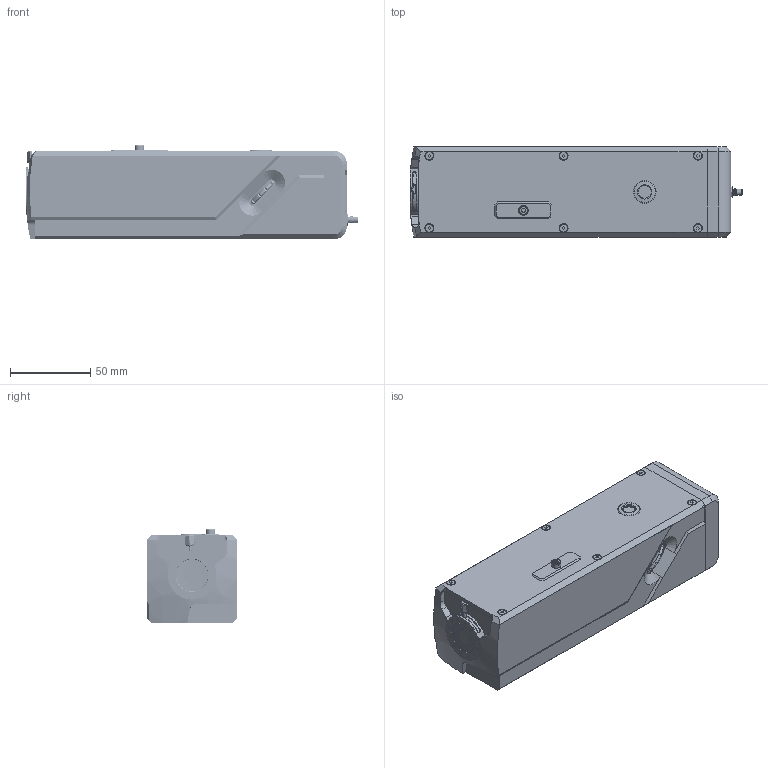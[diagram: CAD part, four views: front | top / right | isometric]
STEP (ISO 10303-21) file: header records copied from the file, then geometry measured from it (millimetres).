
FILE_DESCRIPTION (( 'STEP AP214' ), '1' );
FILE_NAME ('ROC PS.STEP', '2023-11-15T11:14:59', ( '' ), ( '' ), 'SwSTEP 2.0', 'SolidWorks 2020', '' );
FILE_SCHEMA (( 'AUTOMOTIVE_DESIGN' ));
Length unit declared in the file: millimetre
Products named in the file (26): ROC-BOX-03-C5_ROC-BOX-03-C4; COM-ADAPT-AVT_COM-ADAPT-AVT-C1; ROC-BOX-07_ROC-BOX-07-C1; ROC-BOX-04; Cache iris entrée^Assemblage ROC documentation produit; CHC_CHC-M1.6-L5; Cache réglage PM^Assemblage ROC documentation produit; D20S-Solidworks_Sans tige; CHC_CHC-M2-L6; ROC-BOX-06_ROC-BOX-06-C1; Assemblage couvercle ROC avec mire_Petit ROC avec r‚glage PM; ROC-BOX-01_C1 - int‚rieur masqu‚; ROC-BOX-05; Fenêtre mire; FHC_FHC-M2.5-L8 noire; FHC_FHC-M2-L10; ROC-OPT-05.3_ROC-OPT-05.3-D25; ROC-BOX-02_ROC-BOX-02-C3; FHC_FHC-M2.5-L20 noire; ROC PS; Assemblage cul_C5 - Cam‚ra Allied Vision - r‚glage tilt; Alvium-USB180-Bare-Board-IMX250-252-264-265.step; CHC_CHC-M2-L4; ROC-OPT-02.3; 295-5435 - Radiall R112553000; JST 07SR-3S
Assembly tree (38 placements, depth 3):
  ROC PS
    ROC-BOX-01_C1 - int‚rieur masqu‚
    Assemblage couvercle ROC avec mire_Petit ROC avec r‚glage PM
      ROC-BOX-02_ROC-BOX-02-C3
      ROC-BOX-04
      Fenêtre mire
      ROC-BOX-05
      CHC_CHC-M2-L4  x2
      FHC_FHC-M2.5-L8 noire  x6
      FHC_FHC-M2-L10
      ROC-BOX-07_ROC-BOX-07-C1
    Assemblage cul_C5 - Cam‚ra Allied Vision - r‚glage tilt
      FHC_FHC-M2.5-L20 noire  x4
      Alvium-USB180-Bare-Board-IMX250-252-264-265.step
      CHC_CHC-M1.6-L5  x4
      JST 07SR-3S
      COM-ADAPT-AVT_COM-ADAPT-AVT-C1
      ROC-BOX-03-C5_ROC-BOX-03-C4
      CHC_CHC-M2-L6  x2
      295-5435 - Radiall R112553000
    D20S-Solidworks_Sans tige
    ROC-BOX-06_ROC-BOX-06-C1
    ROC-OPT-02.3
    Cache iris entrée^Assemblage ROC documentation produit
    Cache réglage PM^Assemblage ROC documentation produit
    ROC-OPT-05.3_ROC-OPT-05.3-D25
Bounding box: 206.4 x 56 x 58.75 mm (x, y, z)
Volume: 592582.2 mm3; surface area: 100315 mm2
Topology: 72 solids, 210 shells, 11013 faces, 28260 edges, 18638 vertices
Faces by surface type: plane 5511, bspline 3779, cylinder 1566, cone 140, torus 16, sphere 1
Full cylindrical faces by diameter (mm): 0.5 x1, 1 x2, 1.25 x4, 1.486 x12, 1.5 x1, 1.548 x12, 1.6 x10, 1.664 x12, 1.702 x1, 2 x8, 2.08 x1, 2.4 x2, 2.45 x1, 2.5 x11, 2.6 x2, 2.85 x1, 2.9 x10, 3 x4, 3.02 x1, 3.08 x2, 3.3 x6, 3.69 x1, 3.7 x1, 3.8 x4, 4 x1, 4.2 x1, 4.75 x1, 4.8 x1, 5 x11, 6 x3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
Entity records: 567403 total; most frequent: CARTESIAN_POINT 344671, ORIENTED_EDGE 55306, EDGE_CURVE 27685, B_SPLINE_CURVE_WITH_KNOTS 25411, VERTEX_POINT 18364, DIRECTION 17086, EDGE_LOOP 12159, FACE_OUTER_BOUND 10963
